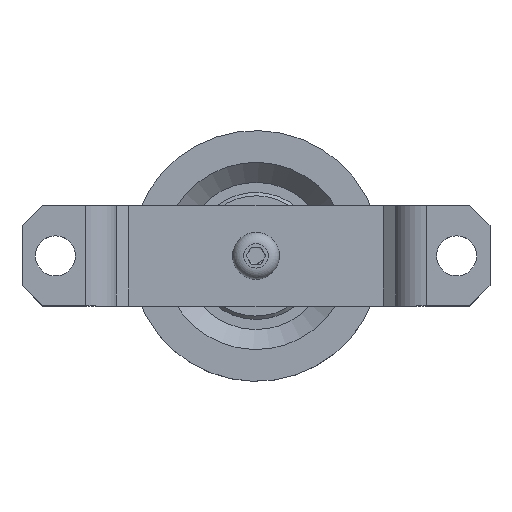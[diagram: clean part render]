
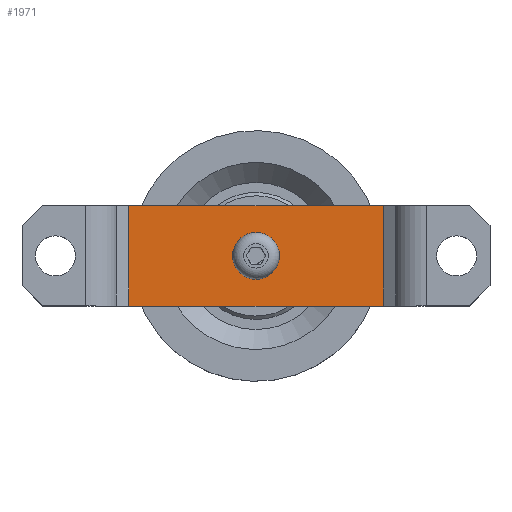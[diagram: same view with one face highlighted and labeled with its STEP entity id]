
A CAD part, top view. The second image highlights one B-rep face of the part: STEP entity #1971.
In plain terms, the highlighted planar face has unit normal (0, 0, 1).
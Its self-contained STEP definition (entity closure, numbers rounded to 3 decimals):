
#85=FACE_BOUND('',#459,.T.);
#173=CIRCLE('',#2266,4.5);
#332=FACE_OUTER_BOUND('',#458,.T.);
#458=EDGE_LOOP('',(#1566,#1567,#1568,#1569));
#459=EDGE_LOOP('',(#1570));
#628=LINE('',#3350,#784);
#632=LINE('',#3358,#788);
#635=LINE('',#3364,#791);
#638=LINE('',#3369,#794);
#784=VECTOR('',#2722,10.);
#788=VECTOR('',#2728,10.);
#791=VECTOR('',#2733,10.);
#794=VECTOR('',#2738,10.);
#910=VERTEX_POINT('',#3342);
#912=VERTEX_POINT('',#3348);
#913=VERTEX_POINT('',#3349);
#916=VERTEX_POINT('',#3357);
#918=VERTEX_POINT('',#3363);
#1141=EDGE_CURVE('',#910,#910,#173,.T.);
#1144=EDGE_CURVE('',#912,#913,#628,.T.);
#1148=EDGE_CURVE('',#913,#916,#632,.T.);
#1151=EDGE_CURVE('',#916,#918,#635,.T.);
#1154=EDGE_CURVE('',#918,#912,#638,.T.);
#1566=ORIENTED_EDGE('',*,*,#1144,.F.);
#1567=ORIENTED_EDGE('',*,*,#1154,.F.);
#1568=ORIENTED_EDGE('',*,*,#1151,.F.);
#1569=ORIENTED_EDGE('',*,*,#1148,.F.);
#1570=ORIENTED_EDGE('',*,*,#1141,.T.);
#1880=PLANE('',#2272);
#1971=ADVANCED_FACE('',(#332,#85),#1880,.T.);
#2266=AXIS2_PLACEMENT_3D('',#3343,#2715,#2716);
#2272=AXIS2_PLACEMENT_3D('',#3371,#2740,#2741);
#2715=DIRECTION('center_axis',(0.,0.,-1.));
#2716=DIRECTION('ref_axis',(-1.,0.,0.));
#2722=DIRECTION('',(0.,-1.,0.));
#2728=DIRECTION('',(-1.,0.,0.));
#2733=DIRECTION('',(0.,1.,0.));
#2738=DIRECTION('',(1.,0.,0.));
#2740=DIRECTION('center_axis',(0.,0.,1.));
#2741=DIRECTION('ref_axis',(1.,0.,0.));
#3342=CARTESIAN_POINT('',(4.5,0.,5.));
#3343=CARTESIAN_POINT('Origin',(0.,0.,5.));
#3348=CARTESIAN_POINT('',(40.5,15.,5.));
#3349=CARTESIAN_POINT('',(40.5,-15.,5.));
#3350=CARTESIAN_POINT('',(40.5,15.,5.));
#3357=CARTESIAN_POINT('',(-40.5,-15.,5.));
#3358=CARTESIAN_POINT('',(40.5,-15.,5.));
#3363=CARTESIAN_POINT('',(-40.5,15.,5.));
#3364=CARTESIAN_POINT('',(-40.5,-15.,5.));
#3369=CARTESIAN_POINT('',(-40.5,15.,5.));
#3371=CARTESIAN_POINT('Origin',(0.,0.,5.));
